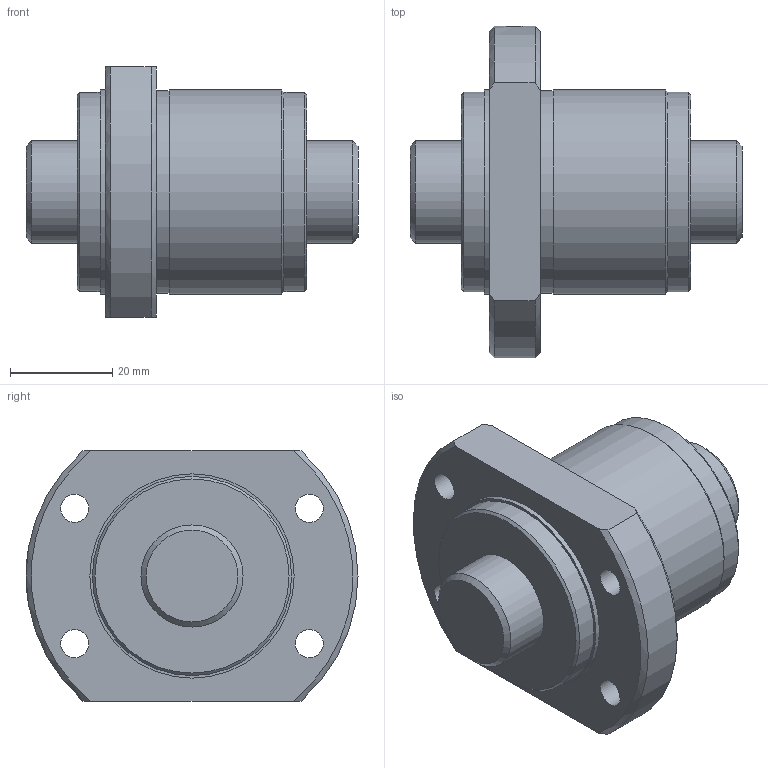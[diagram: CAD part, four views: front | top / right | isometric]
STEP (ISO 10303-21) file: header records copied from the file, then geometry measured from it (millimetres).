
FILE_DESCRIPTION(/* description */ ('STEP AP203'),/* implementation_level */ '2;1');
FILE_NAME(/* name */ 'SBK2010-5.6RRG0+65LC0(0000)',/* time_stamp */ '2024-05-28T11:19:31+02:00',/* author */ ('License CC BY-ND 4.0'),/* organization */ ('CADENAS'),/* preprocessor_version */ 'ST-DEVELOPER v19.3',/* originating_system */ 'PARTsolutions',/* authorisation */ ' ');
FILE_SCHEMA (('CONFIG_CONTROL_DESIGN'));
Length unit declared in the file: millimetre
Products named in the file (3): SBK2010-5.6RRG0+65LC0(0000); NRR000SBK 2010-5.60Shaft; NRR000SBK 2010-5.6Nut
Assembly tree (2 placements, depth 2):
  SBK2010-5.6RRG0+65LC0(0000)
    NRR000SBK 2010-5.60Shaft
    NRR000SBK 2010-5.6Nut
Bounding box: 65 x 65 x 49 mm (x, y, z)
Volume: 76683.1 mm3; surface area: 19402.2 mm2
Topology: 2 solids, 2 shells, 35 faces, 74 edges, 47 vertices
Faces by surface type: cylinder 14, cone 11, plane 10
Full cylindrical faces by diameter (mm): 4.917 x1, 5.5 x4, 20 x2, 39 x2, 39.6 x1, 40 x2
Entity records: 950 total; most frequent: CARTESIAN_POINT 171, DIRECTION 156, ORIENTED_EDGE 106, AXIS2_PLACEMENT_3D 74, FACE_BOUND 69, EDGE_LOOP 68, EDGE_CURVE 53, VERTEX_POINT 46
